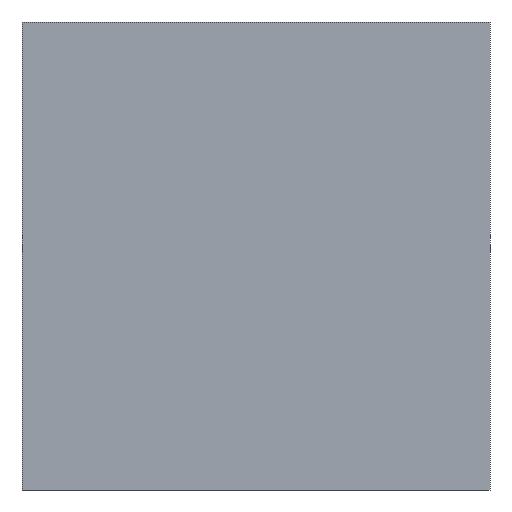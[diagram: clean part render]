
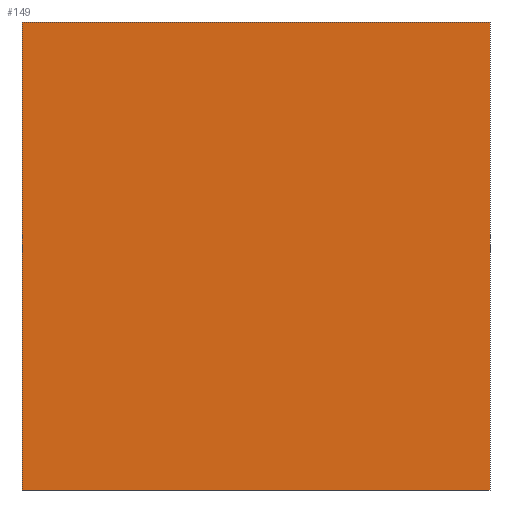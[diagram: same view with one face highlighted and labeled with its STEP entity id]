
A CAD part, front view. The second image highlights one B-rep face of the part: STEP entity #149.
In plain terms, the highlighted planar face has unit normal (0, -1, 0).
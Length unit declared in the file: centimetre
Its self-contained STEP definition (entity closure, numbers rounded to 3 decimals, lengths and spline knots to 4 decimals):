
#12 = VECTOR ( 'NONE', #58, 100. ) ;
#28 = VERTEX_POINT ( 'NONE', #279 ) ;
#32 = DIRECTION ( 'NONE',  ( 1., 0., 0. ) ) ;
#40 = DIRECTION ( 'NONE',  ( 0., 0., 1. ) ) ;
#58 = DIRECTION ( 'NONE',  ( 0., 0., -1. ) ) ;
#105 = EDGE_LOOP ( 'NONE', ( #319, #280, #207, #405 ) ) ;
#116 = VERTEX_POINT ( 'NONE', #347 ) ;
#149 = ADVANCED_FACE ( 'NONE', ( #377 ), #412, .F. ) ;
#188 = CARTESIAN_POINT ( 'NONE',  ( 0., 0., 1000. ) ) ;
#197 = EDGE_CURVE ( 'NONE', #446, #116, #420, .T. ) ;
#207 = ORIENTED_EDGE ( 'NONE', *, *, #197, .F. ) ;
#226 = CARTESIAN_POINT ( 'NONE',  ( 0., 0., 1000. ) ) ;
#230 = AXIS2_PLACEMENT_3D ( 'NONE', #226, #234, #40 ) ;
#234 = DIRECTION ( 'NONE',  ( 0., 1., 0. ) ) ;
#254 = LINE ( 'NONE', #433, #12 ) ;
#262 = VECTOR ( 'NONE', #32, 100. ) ;
#279 = CARTESIAN_POINT ( 'NONE',  ( 1000., 0., 0. ) ) ;
#280 = ORIENTED_EDGE ( 'NONE', *, *, #359, .F. ) ;
#282 = VERTEX_POINT ( 'NONE', #328 ) ;
#285 = LINE ( 'NONE', #462, #262 ) ;
#297 = CARTESIAN_POINT ( 'NONE',  ( 1000., 0., 1000. ) ) ;
#305 = CARTESIAN_POINT ( 'NONE',  ( 0., 0., 1000. ) ) ;
#319 = ORIENTED_EDGE ( 'NONE', *, *, #355, .T. ) ;
#328 = CARTESIAN_POINT ( 'NONE',  ( 0., 0., 0. ) ) ;
#347 = CARTESIAN_POINT ( 'NONE',  ( 1000., 0., 1000. ) ) ;
#355 = EDGE_CURVE ( 'NONE', #282, #28, #285, .T. ) ;
#359 = EDGE_CURVE ( 'NONE', #116, #28, #469, .T. ) ;
#365 = DIRECTION ( 'NONE',  ( 0., 0., -1. ) ) ;
#377 = FACE_OUTER_BOUND ( 'NONE', #105, .T. ) ;
#403 = EDGE_CURVE ( 'NONE', #446, #282, #254, .T. ) ;
#405 = ORIENTED_EDGE ( 'NONE', *, *, #403, .T. ) ;
#409 = VECTOR ( 'NONE', #447, 100. ) ;
#412 = PLANE ( 'NONE',  #230 ) ;
#417 = VECTOR ( 'NONE', #365, 100. ) ;
#420 = LINE ( 'NONE', #305, #409 ) ;
#433 = CARTESIAN_POINT ( 'NONE',  ( 0., 0., 1000. ) ) ;
#446 = VERTEX_POINT ( 'NONE', #188 ) ;
#447 = DIRECTION ( 'NONE',  ( 1., 0., 0. ) ) ;
#462 = CARTESIAN_POINT ( 'NONE',  ( 0., 0., 0. ) ) ;
#469 = LINE ( 'NONE', #297, #417 ) ;
